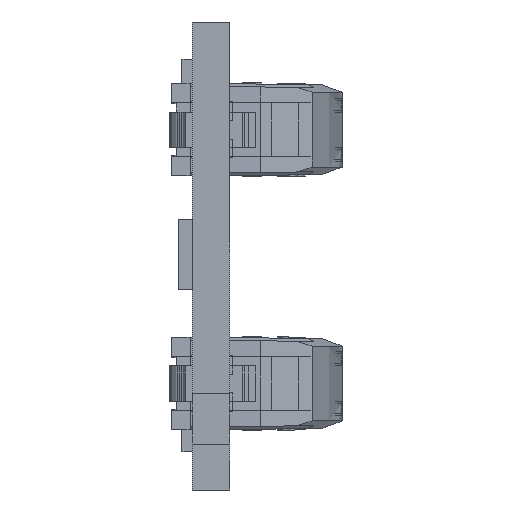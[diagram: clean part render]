
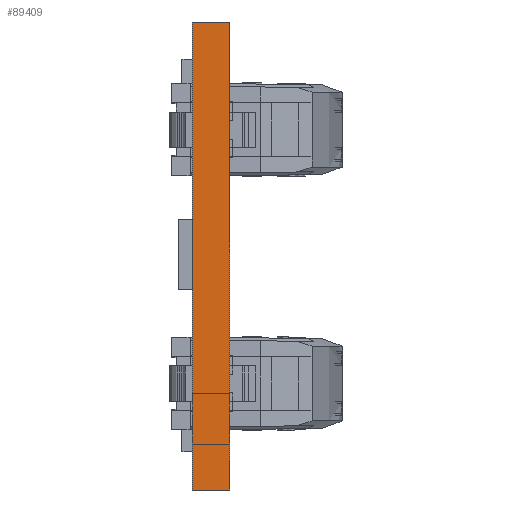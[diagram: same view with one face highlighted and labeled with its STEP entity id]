
A CAD part, left-side view. The second image highlights one B-rep face of the part: STEP entity #89409.
In plain terms, the highlighted planar face has unit normal (-1, 0, 0).
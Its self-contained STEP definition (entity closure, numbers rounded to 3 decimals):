
#10512=DIRECTION('',(0.,0.,1.));
#10513=VECTOR('',#10512,20.);
#10514=CARTESIAN_POINT('',(-279.5,0.,-10.));
#10515=LINE('',#10514,#10513);
#30896=DIRECTION('',(0.,0.,1.));
#30897=VECTOR('',#30896,20.);
#30898=CARTESIAN_POINT('',(-279.5,-1.6,-10.));
#30899=LINE('',#30898,#30897);
#31555=DIRECTION('',(0.,-1.,0.));
#31556=VECTOR('',#31555,1.6);
#31557=CARTESIAN_POINT('',(-279.5,0.,-10.));
#31558=LINE('',#31557,#31556);
#31599=DIRECTION('',(0.,-1.,0.));
#31600=VECTOR('',#31599,1.6);
#31601=CARTESIAN_POINT('',(-279.5,0.,10.));
#31602=LINE('',#31601,#31600);
#31803=CARTESIAN_POINT('',(-279.5,0.,-10.));
#31804=CARTESIAN_POINT('',(-279.5,0.,10.));
#31805=VERTEX_POINT('',#31803);
#31806=VERTEX_POINT('',#31804);
#31811=CARTESIAN_POINT('',(-279.5,-1.6,-10.));
#31812=CARTESIAN_POINT('',(-279.5,-1.6,10.));
#31813=VERTEX_POINT('',#31811);
#31814=VERTEX_POINT('',#31812);
#89397=CARTESIAN_POINT('',(-279.5,0.,-10.));
#89398=DIRECTION('',(-1.,0.,0.));
#89399=DIRECTION('',(0.,0.,1.));
#89400=AXIS2_PLACEMENT_3D('',#89397,#89398,#89399);
#89401=PLANE('',#89400);
#89402=ORIENTED_EDGE('',*,*,#43615,.T.);
#89404=ORIENTED_EDGE('',*,*,#89403,.T.);
#89405=ORIENTED_EDGE('',*,*,#87743,.F.);
#89406=ORIENTED_EDGE('',*,*,#89064,.F.);
#89407=EDGE_LOOP('',(#89402,#89404,#89405,#89406));
#89408=FACE_OUTER_BOUND('',#89407,.F.);
#43615=EDGE_CURVE('',#31805,#31806,#10515,.T.);
#87743=EDGE_CURVE('',#31813,#31814,#30899,.T.);
#89064=EDGE_CURVE('',#31805,#31813,#31558,.T.);
#89403=EDGE_CURVE('',#31806,#31814,#31602,.T.);
#89409=ADVANCED_FACE('',(#89408),#89401,.T.);
